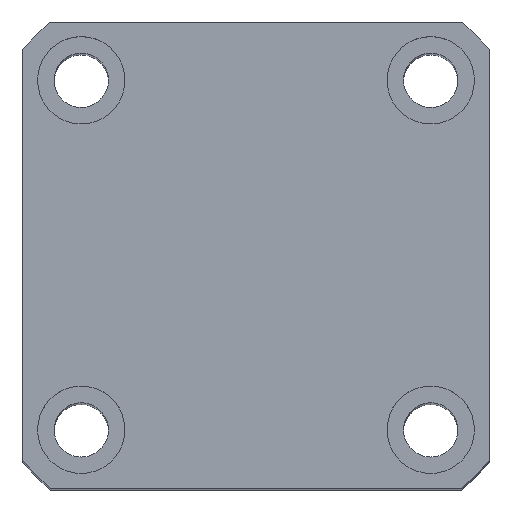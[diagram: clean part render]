
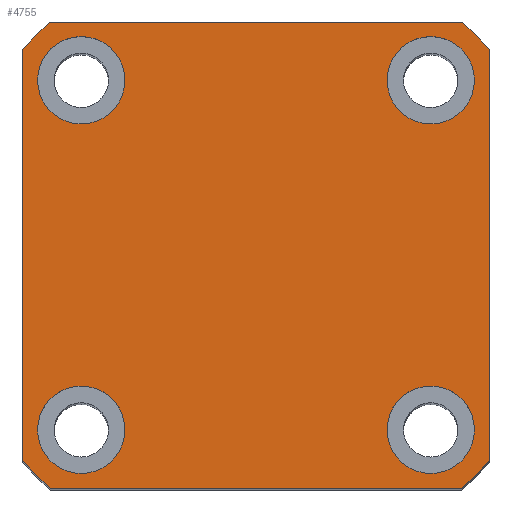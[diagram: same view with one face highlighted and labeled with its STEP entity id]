
A CAD part, top view. The second image highlights one B-rep face of the part: STEP entity #4755.
In plain terms, the highlighted planar face has unit normal (0, 0, 1) as drawn and (1, 0, 0) by its records, which use the part's own axes.
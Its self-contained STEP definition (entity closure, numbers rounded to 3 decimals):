
#13 = CARTESIAN_POINT ( 'NONE',  ( 115., 21.166, -24. ) ) ;
#213 = EDGE_CURVE ( 'NONE', #1675, #8216, #2998, .T. ) ;
#279 = CARTESIAN_POINT ( 'NONE',  ( 115., 24., 24. ) ) ;
#288 = ORIENTED_EDGE ( 'NONE', *, *, #213, .T. ) ;
#408 = ORIENTED_EDGE ( 'NONE', *, *, #2881, .F. ) ;
#534 = CARTESIAN_POINT ( 'NONE',  ( 115., 24., -21.166 ) ) ;
#556 = CIRCLE ( 'NONE', #3489, 4.5 ) ;
#711 = CARTESIAN_POINT ( 'NONE',  ( 115., 24., 24. ) ) ;
#725 = CARTESIAN_POINT ( 'NONE',  ( 115., -24., 24. ) ) ;
#768 = EDGE_LOOP ( 'NONE', ( #8629, #10614 ) ) ;
#775 = VERTEX_POINT ( 'NONE', #6097 ) ;
#816 = VERTEX_POINT ( 'NONE', #6137 ) ;
#829 = VERTEX_POINT ( 'NONE', #2389 ) ;
#846 = AXIS2_PLACEMENT_3D ( 'NONE', #9296, #8416, #8076 ) ;
#909 = VECTOR ( 'NONE', #10601, 1000. ) ;
#1014 = DIRECTION ( 'NONE',  ( 1., 0., 0. ) ) ;
#1053 = EDGE_CURVE ( 'NONE', #4591, #7569, #5028, .T. ) ;
#1122 = CARTESIAN_POINT ( 'NONE',  ( 115., -18., 13.5 ) ) ;
#1265 = VERTEX_POINT ( 'NONE', #1122 ) ;
#1312 = ORIENTED_EDGE ( 'NONE', *, *, #5737, .F. ) ;
#1313 = EDGE_CURVE ( 'NONE', #829, #1265, #6884, .T. ) ;
#1479 = VERTEX_POINT ( 'NONE', #3542 ) ;
#1550 = VERTEX_POINT ( 'NONE', #2631 ) ;
#1595 = CARTESIAN_POINT ( 'NONE',  ( 115., 0., 0. ) ) ;
#1629 = CARTESIAN_POINT ( 'NONE',  ( 115., -21.166, -24. ) ) ;
#1675 = VERTEX_POINT ( 'NONE', #6100 ) ;
#1747 = DIRECTION ( 'NONE',  ( 0., 0., -1. ) ) ;
#1804 = EDGE_CURVE ( 'NONE', #1265, #829, #3467, .T. ) ;
#1844 = EDGE_LOOP ( 'NONE', ( #4742, #408 ) ) ;
#1900 = DIRECTION ( 'NONE',  ( 0., 0., -1. ) ) ;
#1908 = CARTESIAN_POINT ( 'NONE',  ( 115., 21.166, 24. ) ) ;
#2008 = CIRCLE ( 'NONE', #7278, 32. ) ;
#2059 = AXIS2_PLACEMENT_3D ( 'NONE', #3416, #9215, #4237 ) ;
#2320 = FACE_BOUND ( 'NONE', #1844, .T. ) ;
#2389 = CARTESIAN_POINT ( 'NONE',  ( 115., -18., 22.5 ) ) ;
#2540 = CARTESIAN_POINT ( 'NONE',  ( 115., 0., 0. ) ) ;
#2541 = CARTESIAN_POINT ( 'NONE',  ( 115., 18., -18. ) ) ;
#2624 = EDGE_CURVE ( 'NONE', #8216, #1479, #3070, .T. ) ;
#2631 = CARTESIAN_POINT ( 'NONE',  ( 115., -18., -13.5 ) ) ;
#2851 = CARTESIAN_POINT ( 'NONE',  ( 115., -24., 21.166 ) ) ;
#2875 = VECTOR ( 'NONE', #8277, 1000. ) ;
#2881 = EDGE_CURVE ( 'NONE', #1550, #7918, #4718, .T. ) ;
#2998 = CIRCLE ( 'NONE', #6545, 32. ) ;
#3052 = CIRCLE ( 'NONE', #3843, 4.5 ) ;
#3070 = LINE ( 'NONE', #711, #909 ) ;
#3089 = ORIENTED_EDGE ( 'NONE', *, *, #6341, .T. ) ;
#3124 = CARTESIAN_POINT ( 'NONE',  ( 115., 24., -24. ) ) ;
#3206 = EDGE_CURVE ( 'NONE', #9027, #775, #10586, .T. ) ;
#3216 = CARTESIAN_POINT ( 'NONE',  ( 115., 18., 22.5 ) ) ;
#3252 = DIRECTION ( 'NONE',  ( 1., 0., 0. ) ) ;
#3279 = EDGE_CURVE ( 'NONE', #1479, #10582, #10334, .T. ) ;
#3281 = EDGE_CURVE ( 'NONE', #10582, #10010, #5873, .T. ) ;
#3330 = VERTEX_POINT ( 'NONE', #3216 ) ;
#3341 = DIRECTION ( 'NONE',  ( 0., 0., -1. ) ) ;
#3416 = CARTESIAN_POINT ( 'NONE',  ( 115., 18., 18. ) ) ;
#3467 = CIRCLE ( 'NONE', #3974, 4.5 ) ;
#3489 = AXIS2_PLACEMENT_3D ( 'NONE', #3851, #9676, #4664 ) ;
#3537 = EDGE_LOOP ( 'NONE', ( #5146, #7023, #6778, #288, #4098, #5765, #5510, #3089 ) ) ;
#3542 = CARTESIAN_POINT ( 'NONE',  ( 115., -21.166, 24. ) ) ;
#3660 = DIRECTION ( 'NONE',  ( 1., 0., 0. ) ) ;
#3706 = VERTEX_POINT ( 'NONE', #534 ) ;
#3709 = VECTOR ( 'NONE', #5614, 1000. ) ;
#3734 = ORIENTED_EDGE ( 'NONE', *, *, #9903, .F. ) ;
#3843 = AXIS2_PLACEMENT_3D ( 'NONE', #9632, #4615, #10460 ) ;
#3851 = CARTESIAN_POINT ( 'NONE',  ( 115., 18., -18. ) ) ;
#3974 = AXIS2_PLACEMENT_3D ( 'NONE', #4063, #4264, #4335 ) ;
#4027 = DIRECTION ( 'NONE',  ( 1., 0., 0. ) ) ;
#4031 = DIRECTION ( 'NONE',  ( 1., 0., 0. ) ) ;
#4063 = CARTESIAN_POINT ( 'NONE',  ( 115., -18., 18. ) ) ;
#4098 = ORIENTED_EDGE ( 'NONE', *, *, #2624, .T. ) ;
#4202 = FACE_OUTER_BOUND ( 'NONE', #3537, .T. ) ;
#4237 = DIRECTION ( 'NONE',  ( 0., 0., -1. ) ) ;
#4264 = DIRECTION ( 'NONE',  ( 1., 0., 0. ) ) ;
#4269 = VECTOR ( 'NONE', #5980, 1000. ) ;
#4335 = DIRECTION ( 'NONE',  ( 0., 0., -1. ) ) ;
#4591 = VERTEX_POINT ( 'NONE', #1629 ) ;
#4615 = DIRECTION ( 'NONE',  ( 1., 0., 0. ) ) ;
#4664 = DIRECTION ( 'NONE',  ( 0., 0., -1. ) ) ;
#4718 = CIRCLE ( 'NONE', #846, 4.5 ) ;
#4733 = AXIS2_PLACEMENT_3D ( 'NONE', #2540, #8245, #3341 ) ;
#4742 = ORIENTED_EDGE ( 'NONE', *, *, #9384, .F. ) ;
#4755 = ADVANCED_FACE ( 'NONE', ( #2320, #8873, #8593, #6353, #4202 ), #8306, .T. ) ;
#5028 = LINE ( 'NONE', #3124, #2875 ) ;
#5146 = ORIENTED_EDGE ( 'NONE', *, *, #1053, .T. ) ;
#5388 = ORIENTED_EDGE ( 'NONE', *, *, #7682, .F. ) ;
#5510 = ORIENTED_EDGE ( 'NONE', *, *, #3281, .T. ) ;
#5523 = AXIS2_PLACEMENT_3D ( 'NONE', #8591, #3660, #9463 ) ;
#5548 = CIRCLE ( 'NONE', #5523, 4.5 ) ;
#5596 = CIRCLE ( 'NONE', #4733, 32. ) ;
#5614 = DIRECTION ( 'NONE',  ( 0., 0., -1. ) ) ;
#5725 = EDGE_LOOP ( 'NONE', ( #1312, #5388 ) ) ;
#5737 = EDGE_CURVE ( 'NONE', #816, #3330, #3052, .T. ) ;
#5765 = ORIENTED_EDGE ( 'NONE', *, *, #3279, .T. ) ;
#5873 = LINE ( 'NONE', #725, #3709 ) ;
#5892 = CARTESIAN_POINT ( 'NONE',  ( 115., 0., 0. ) ) ;
#5980 = DIRECTION ( 'NONE',  ( 0., 0., 1. ) ) ;
#6097 = CARTESIAN_POINT ( 'NONE',  ( 115., 18., -13.5 ) ) ;
#6100 = CARTESIAN_POINT ( 'NONE',  ( 115., 24., 21.166 ) ) ;
#6137 = CARTESIAN_POINT ( 'NONE',  ( 115., 18., 13.5 ) ) ;
#6164 = DIRECTION ( 'NONE',  ( 1., 0., 0. ) ) ;
#6189 = CARTESIAN_POINT ( 'NONE',  ( 115., 18., -22.5 ) ) ;
#6341 = EDGE_CURVE ( 'NONE', #10010, #4591, #5596, .T. ) ;
#6353 = FACE_BOUND ( 'NONE', #5725, .T. ) ;
#6545 = AXIS2_PLACEMENT_3D ( 'NONE', #1595, #3252, #1900 ) ;
#6691 = DIRECTION ( 'NONE',  ( 0., 0., -1. ) ) ;
#6778 = ORIENTED_EDGE ( 'NONE', *, *, #8471, .T. ) ;
#6884 = CIRCLE ( 'NONE', #10307, 4.5 ) ;
#7023 = ORIENTED_EDGE ( 'NONE', *, *, #10030, .T. ) ;
#7094 = CARTESIAN_POINT ( 'NONE',  ( 115., -18., -22.5 ) ) ;
#7278 = AXIS2_PLACEMENT_3D ( 'NONE', #9000, #4027, #9855 ) ;
#7569 = VERTEX_POINT ( 'NONE', #13 ) ;
#7682 = EDGE_CURVE ( 'NONE', #3330, #816, #8735, .T. ) ;
#7918 = VERTEX_POINT ( 'NONE', #7094 ) ;
#8076 = DIRECTION ( 'NONE',  ( 0., 0., -1. ) ) ;
#8084 = ORIENTED_EDGE ( 'NONE', *, *, #3206, .F. ) ;
#8107 = AXIS2_PLACEMENT_3D ( 'NONE', #5892, #1014, #6691 ) ;
#8216 = VERTEX_POINT ( 'NONE', #1908 ) ;
#8245 = DIRECTION ( 'NONE',  ( 1., 0., 0. ) ) ;
#8277 = DIRECTION ( 'NONE',  ( 0., 1., 0. ) ) ;
#8306 = PLANE ( 'NONE',  #8107 ) ;
#8416 = DIRECTION ( 'NONE',  ( 1., 0., 0. ) ) ;
#8426 = DIRECTION ( 'NONE',  ( 0., 0., -1. ) ) ;
#8463 = DIRECTION ( 'NONE',  ( 1., 0., 0. ) ) ;
#8471 = EDGE_CURVE ( 'NONE', #3706, #1675, #10638, .T. ) ;
#8531 = CARTESIAN_POINT ( 'NONE',  ( 115., -18., 18. ) ) ;
#8532 = AXIS2_PLACEMENT_3D ( 'NONE', #2541, #6164, #1747 ) ;
#8591 = CARTESIAN_POINT ( 'NONE',  ( 115., -18., -18. ) ) ;
#8593 = FACE_BOUND ( 'NONE', #10241, .T. ) ;
#8629 = ORIENTED_EDGE ( 'NONE', *, *, #1804, .F. ) ;
#8735 = CIRCLE ( 'NONE', #2059, 4.5 ) ;
#8873 = FACE_BOUND ( 'NONE', #768, .T. ) ;
#8963 = CARTESIAN_POINT ( 'NONE',  ( 115., -24., -21.166 ) ) ;
#9000 = CARTESIAN_POINT ( 'NONE',  ( 115., 0., 0. ) ) ;
#9003 = CARTESIAN_POINT ( 'NONE',  ( 115., 0., 0. ) ) ;
#9027 = VERTEX_POINT ( 'NONE', #6189 ) ;
#9116 = AXIS2_PLACEMENT_3D ( 'NONE', #9003, #4031, #9859 ) ;
#9215 = DIRECTION ( 'NONE',  ( 1., 0., 0. ) ) ;
#9296 = CARTESIAN_POINT ( 'NONE',  ( 115., -18., -18. ) ) ;
#9384 = EDGE_CURVE ( 'NONE', #7918, #1550, #5548, .T. ) ;
#9463 = DIRECTION ( 'NONE',  ( 0., 0., -1. ) ) ;
#9632 = CARTESIAN_POINT ( 'NONE',  ( 115., 18., 18. ) ) ;
#9676 = DIRECTION ( 'NONE',  ( 1., 0., 0. ) ) ;
#9855 = DIRECTION ( 'NONE',  ( 0., 0., -1. ) ) ;
#9859 = DIRECTION ( 'NONE',  ( 0., 0., -1. ) ) ;
#9903 = EDGE_CURVE ( 'NONE', #775, #9027, #556, .T. ) ;
#10010 = VERTEX_POINT ( 'NONE', #8963 ) ;
#10030 = EDGE_CURVE ( 'NONE', #7569, #3706, #2008, .T. ) ;
#10241 = EDGE_LOOP ( 'NONE', ( #8084, #3734 ) ) ;
#10307 = AXIS2_PLACEMENT_3D ( 'NONE', #8531, #8463, #8426 ) ;
#10334 = CIRCLE ( 'NONE', #9116, 32. ) ;
#10460 = DIRECTION ( 'NONE',  ( 0., 0., -1. ) ) ;
#10582 = VERTEX_POINT ( 'NONE', #2851 ) ;
#10586 = CIRCLE ( 'NONE', #8532, 4.5 ) ;
#10601 = DIRECTION ( 'NONE',  ( 0., -1., 0. ) ) ;
#10614 = ORIENTED_EDGE ( 'NONE', *, *, #1313, .F. ) ;
#10638 = LINE ( 'NONE', #279, #4269 ) ;
